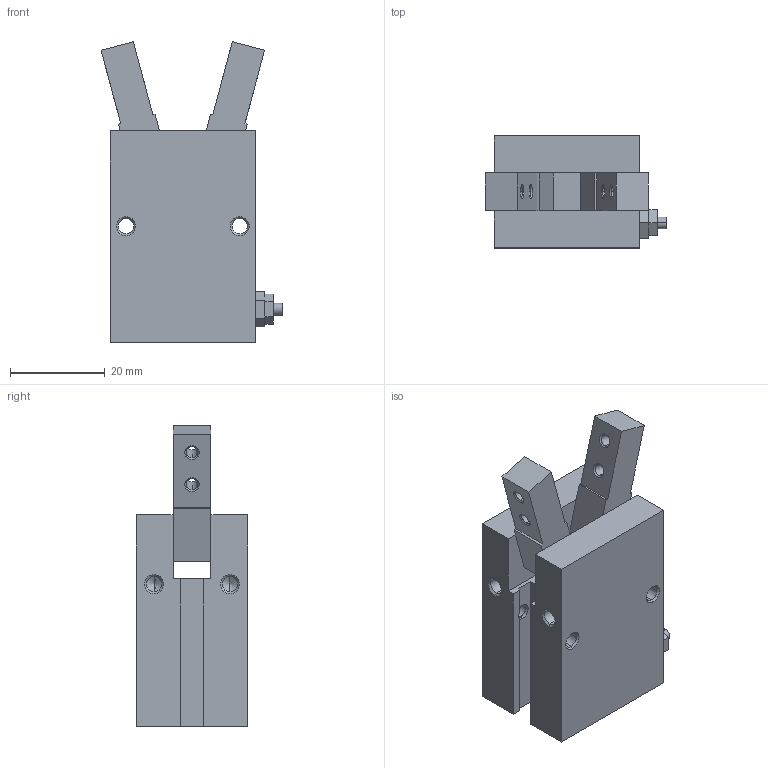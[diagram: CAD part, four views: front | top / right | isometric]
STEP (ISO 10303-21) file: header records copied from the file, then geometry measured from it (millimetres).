
FILE_DESCRIPTION (( 'STEP AP214' ), '1' );
FILE_NAME ('GMHC2-16D.STEP', '2019-11-12T01:10:25', ( '微软用户' ), ( '微软中国' ), 'SwSTEP 2.0', 'SolidWorks 2016', '' );
FILE_SCHEMA (( 'AUTOMOTIVE_DESIGN' ));
Length unit declared in the file: millimetre
Products named in the file (1): GMHC2-16D
Bounding box: 38.33 x 23.6 x 63.44 mm (x, y, z)
Surface area: 10846.2 mm2 (no closed solid volume)
Topology: 0 solids, 3 shells, 166 faces, 458 edges, 284 vertices
Faces by surface type: plane 70, cylinder 48, cone 48
Entity records: 5819 total; most frequent: CARTESIAN_POINT 1569, DIRECTION 894, ORIENTED_EDGE 856, EDGE_CURVE 446, AXIS2_PLACEMENT_3D 323, VERTEX_POINT 284, VECTOR 248, LINE 248
